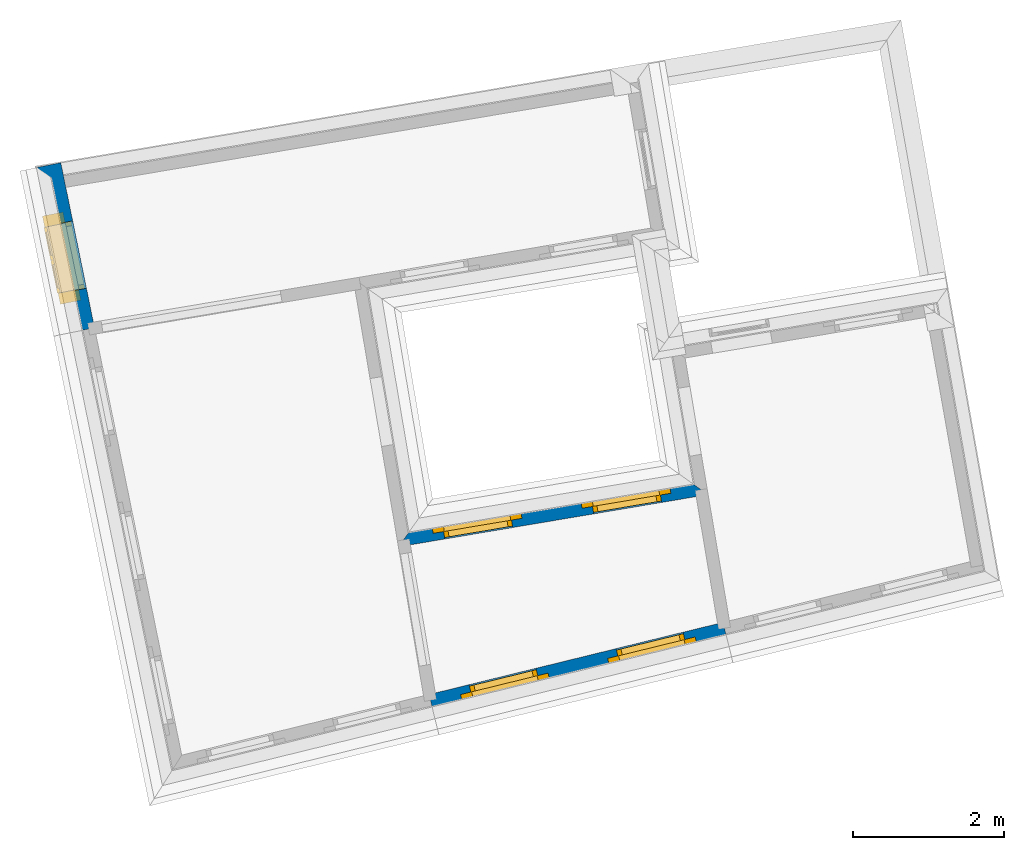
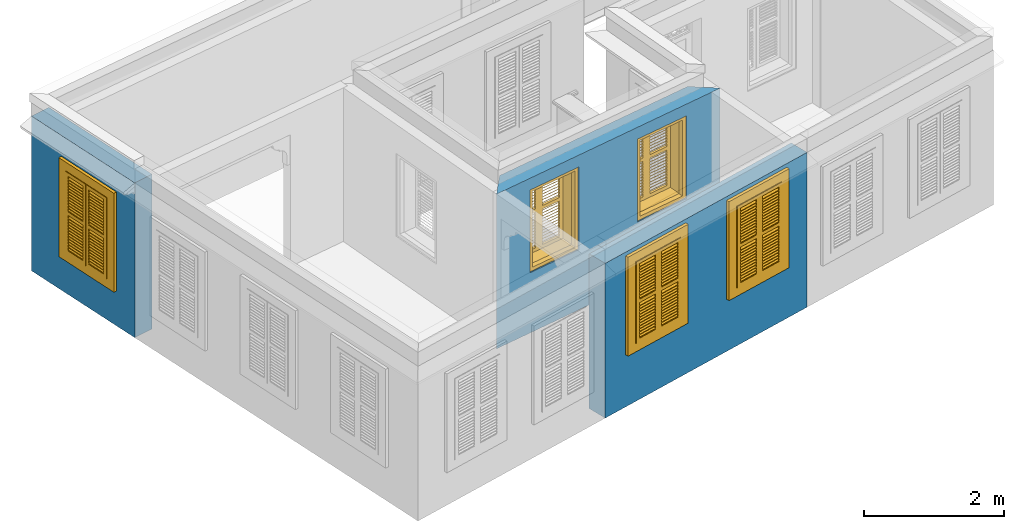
# One storey, part 3 of 12: 5 windows, 3 walls, 5 openings.
"""IFC4 building model written with IfcOpenShell, lengths in metres."""

from ifc_helpers import new_model, si_unit, frame, origin, origin_with_axes, place, context, subcontext, project, spatial, polyline, outline, extrude, faceted_brep, source, transform, mapped, material, layer, layer_set, layer_usage, type_object, type_shapes, element, fill, save


model = new_model("IFC4")

# Units and contexts
model_context = context("Model", 3, world=origin_with_axes())
body_context = subcontext(model_context, "Body", "Model", "MODEL_VIEW")
ifc_project = project(units=[si_unit("PLANEANGLEUNIT", "RADIAN"), si_unit("MASSUNIT", "GRAM", prefix="KILO"), si_unit("FORCEUNIT", "NEWTON", prefix="KILO"), si_unit("LENGTHUNIT", "METRE"), si_unit("AREAUNIT", "SQUARE_METRE"), si_unit("VOLUMEUNIT", "CUBIC_METRE")], contexts=[model_context, model_context])

# Site, building, storey
site_placement = place(None, origin_with_axes())
site = spatial("IfcSite", under=ifc_project, at=site_placement, Name="Site plot-6", CompositionType="ELEMENT")
building_placement = place(None, origin_with_axes())
building = spatial("IfcBuilding", under=site, at=building_placement, Name="Building plot-6", CompositionType="ELEMENT")
storey_placement = place(None, frame((0.0, 0.0, 3.6), z_axis=(0.0, 0.0, 1.0), x_axis=(1.0, 0.0, 0.0)))
storey = spatial("IfcBuildingStorey", under=building, at=storey_placement, Name="plot-6 1", CompositionType="ELEMENT", Elevation=3.6)

# Wall, openings, windows
ifc_material = material(Name="Masonry")
ifc_layer = layer(ifc_material, 0.33, ventilated=False)
ifc_layer_set = layer_set([ifc_layer], Name="exterior_0.08_0.25")
ifc_layer_usage = layer_usage(ifc_layer_set, "AXIS2", "POSITIVE", -0.25)
wall_type = type_object("IfcWallType", Name="exterior_0.08_0.25", PredefinedType="SOLIDWALL", material=ifc_layer_set)
wall_1_placement = place(storey_placement, frame((-2.44228456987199, -0.0610171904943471, 0.0), z_axis=(0.0, 0.0, 1.0), x_axis=(-0.986076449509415, -0.166292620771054, 0.0)))
wall_1 = element("IfcWall", 1, at=wall_1_placement, inside=storey, type_object=wall_type, material=ifc_layer_usage, Name="exterior", context=body_context, shape_type="SweptSolid", body=[
    extrude(outline(polyline([(-0.0799999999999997, 0.080000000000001), (0.249999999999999, -0.250000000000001), (3.73805094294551, -0.250000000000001), (4.06805094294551, 0.0799999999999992), (-0.0799999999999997, 0.080000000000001)])), origin_with_axes(), (0.0, 0.0, 1.0), 2.7),
])
opening_1_placement = place(wall_1_placement, frame((0.542012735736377, 0.0, 1.05)))
opening_1 = element("IfcOpeningElement", 2, at=opening_1_placement, cuts=wall_1, Name="My Opening", ObjectType="Opening", context=body_context, shape_type="SweptSolid", body=[
    extrude(outline(polyline([(0.0, -0.27), (0.91, -0.27), (0.91, 1.1), (0.0, 1.1), (0.0, -0.27)])), origin_with_axes(), (0.0, 0.0, 1.0), 1.445),
])
opening_2_placement = place(wall_1_placement, frame((2.53603820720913, 0.0, 1.05)))
opening_2 = element("IfcOpeningElement", 3, at=opening_2_placement, cuts=wall_1, Name="My Opening", ObjectType="Opening", context=body_context, shape_type="SweptSolid", body=[
    extrude(outline(polyline([(0.0, -0.27), (0.91, -0.27), (0.91, 1.1), (4.44089209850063e-16, 1.1), (0.0, -0.27)])), origin_with_axes(), (0.0, 0.0, 1.0), 1.445),
])
window_type = type_object("IfcWindowType", Name="shuttered_shorter", PartitioningType="DOUBLE_PANEL_HORIZONTAL", PredefinedType="NOTDEFINED")
shared_shape = source(origin(), body_context, "Body", "Brep", [
    faceted_brep([(0.393, 0.0, 0.622), (0.074, 0.0, 0.622), (0.074, 0.0, 0.632), (0.393, 0.0, 0.632), (0.074, -0.04, 0.592), (0.393, -0.04, 0.592), (0.393, -0.04, 0.582), (0.074, -0.04, 0.582), (0.517, 0.0, 0.682), (0.836, 0.0, 0.682), (0.836, 0.0, 0.672), (0.517, 0.0, 0.672), (0.517, -0.04, 0.642), (0.836, -0.04, 0.642), (0.836, -0.04, 0.632), (0.517, -0.04, 0.632), (0.517, 0.0, 0.632), (0.836, 0.0, 0.632), (0.836, 0.0, 0.622), (0.517, 0.0, 0.622), (0.517, -0.04, 0.592), (0.836, -0.04, 0.592), (0.836, -0.04, 0.582), (0.517, -0.04, 0.582), (0.517, 0.0, 0.232), (0.836, 0.0, 0.232), (0.836, 0.0, 0.222), (0.517, 0.0, 0.222), (0.517, -0.04, 0.192), (0.836, -0.04, 0.192), (0.836, -0.04, 0.182), (0.517, -0.04, 0.182), (0.517, 0.0, 0.532), (0.836, 0.0, 0.532), (0.836, 0.0, 0.522), (0.517, 0.0, 0.522), (0.517, -0.04, 0.492), (0.836, -0.04, 0.492), (0.836, -0.04, 0.482), (0.517, -0.04, 0.482), (0.517, 0.0, 0.482), (0.836, 0.0, 0.482), (0.836, 0.0, 0.472), (0.517, 0.0, 0.472), (0.517, -0.04, 0.442), (0.836, -0.04, 0.442), (0.836, -0.04, 0.432), (0.517, -0.04, 0.432), (0.517, 0.0, 0.582), (0.836, 0.0, 0.582), (0.836, 0.0, 0.572), (0.517, 0.0, 0.572), (0.517, -0.04, 0.542), (0.836, -0.04, 0.542), (0.836, -0.04, 0.532), (0.517, -0.04, 0.532), (0.517, 0.0, 0.182), (0.836, 0.0, 0.182), (0.836, 0.0, 0.172), (0.517, 0.0, 0.172), (0.517, -0.04, 0.142), (0.836, -0.04, 0.142), (0.836, -0.04, 0.132), (0.517, -0.04, 0.132), (0.517, 0.0, 0.382), (0.836, 0.0, 0.382), (0.836, 0.0, 0.372), (0.517, 0.0, 0.372), (0.517, -0.04, 0.342), (0.836, -0.04, 0.342), (0.836, -0.04, 0.332), (0.517, -0.04, 0.332), (0.517, 0.0, 0.432), (0.836, 0.0, 0.432), (0.836, 0.0, 0.422), (0.517, 0.0, 0.422), (0.517, -0.04, 0.392), (0.836, -0.04, 0.392), (0.836, -0.04, 0.382), (0.517, -0.04, 0.382), (0.517, 0.0, 0.132), (0.836, 0.0, 0.132), (0.836, 0.0, 0.122), (0.517, 0.0, 0.122), (0.517, -0.04, 0.092), (0.836, -0.04, 0.092), (0.836, -0.04, 0.082), (0.517, -0.04, 0.082), (0.517, 0.0, 0.282), (0.836, 0.0, 0.282), (0.836, 0.0, 0.272), (0.517, 0.0, 0.272), (0.517, -0.04, 0.242), (0.836, -0.04, 0.242), (0.836, -0.04, 0.232), (0.517, -0.04, 0.232), (0.517, 0.0, 0.332), (0.836, 0.0, 0.332), (0.836, 0.0, 0.322), (0.517, 0.0, 0.322), (0.517, -0.04, 0.292), (0.836, -0.04, 0.292), (0.836, -0.04, 0.282), (0.517, -0.04, 0.282), (0.517, 0.0, 1.362667), (0.836, 0.0, 1.362667), (0.836, 0.0, 1.352667), (0.517, 0.0, 1.352667), (0.517, -0.04, 1.322667), (0.836, -0.04, 1.322667), (0.836, -0.04, 1.312667), (0.517, -0.04, 1.312667), (0.517, 0.0, 1.312667), (0.836, 0.0, 1.312667), (0.836, 0.0, 1.302667), (0.517, 0.0, 1.302667), (0.517, -0.04, 1.272667), (0.836, -0.04, 1.272667), (0.836, -0.04, 1.262667), (0.517, -0.04, 1.262667), (0.517, 0.0, 0.912667), (0.836, 0.0, 0.912667), (0.836, 0.0, 0.902667), (0.517, 0.0, 0.902667), (0.517, -0.04, 0.872667), (0.836, -0.04, 0.872667), (0.836, -0.04, 0.862667), (0.517, -0.04, 0.862667), (0.517, 0.0, 1.212667), (0.836, 0.0, 1.212667), (0.836, 0.0, 1.202667), (0.517, 0.0, 1.202667), (0.517, -0.04, 1.172667), (0.836, -0.04, 1.172667), (0.836, -0.04, 1.162667), (0.517, -0.04, 1.162667), (0.517, 0.0, 1.162667), (0.836, 0.0, 1.162667), (0.836, 0.0, 1.152667), (0.517, 0.0, 1.152667), (0.517, -0.04, 1.122667), (0.836, -0.04, 1.122667), (0.836, -0.04, 1.112667), (0.517, -0.04, 1.112667), (0.517, 0.0, 1.262667), (0.836, 0.0, 1.262667), (0.836, 0.0, 1.252667), (0.517, 0.0, 1.252667), (0.517, -0.04, 1.222667), (0.836, -0.04, 1.222667), (0.836, -0.04, 1.212667), (0.517, -0.04, 1.212667), (0.517, 0.0, 0.862667), (0.836, 0.0, 0.862667), (0.836, 0.0, 0.852667), (0.517, 0.0, 0.852667), (0.517, -0.04, 0.822667), (0.836, -0.04, 0.822667), (0.836, -0.04, 0.812667), (0.517, -0.04, 0.812667), (0.517, 0.0, 1.062667), (0.836, 0.0, 1.062667), (0.836, 0.0, 1.052667), (0.517, 0.0, 1.052667), (0.517, -0.04, 1.022667), (0.836, -0.04, 1.022667), (0.836, -0.04, 1.012667), (0.517, -0.04, 1.012667), (0.517, 0.0, 1.112667), (0.836, 0.0, 1.112667), (0.836, 0.0, 1.102667), (0.517, 0.0, 1.102667), (0.517, -0.04, 1.072667), (0.836, -0.04, 1.072667), (0.836, -0.04, 1.062667), (0.517, -0.04, 1.062667), (0.517, 0.0, 0.812667), (0.836, 0.0, 0.812667), (0.836, 0.0, 0.802667), (0.517, 0.0, 0.802667), (0.517, -0.04, 0.772667), (0.836, -0.04, 0.772667), (0.836, -0.04, 0.762667), (0.517, -0.04, 0.762667), (0.517, 0.0, 0.962667), (0.836, 0.0, 0.962667), (0.836, 0.0, 0.952667), (0.517, 0.0, 0.952667), (0.517, -0.04, 0.922667), (0.836, -0.04, 0.922667), (0.836, -0.04, 0.912667), (0.517, -0.04, 0.912667), (0.517, 0.0, 1.012667), (0.836, 0.0, 1.012667), (0.836, 0.0, 1.002667), (0.517, 0.0, 1.002667), (0.517, -0.04, 0.972667), (0.836, -0.04, 0.972667), (0.836, -0.04, 0.962667), (0.517, -0.04, 0.962667), (0.074, 0.0, 0.682), (0.393, 0.0, 0.682), (0.393, 0.0, 0.672), (0.074, 0.0, 0.672), (0.074, -0.04, 0.642), (0.393, -0.04, 0.642), (0.393, -0.04, 0.632), (0.074, -0.04, 0.632), (0.074, 0.0, 0.232), (0.393, 0.0, 0.232), (0.393, 0.0, 0.222), (0.074, 0.0, 0.222), (0.074, -0.04, 0.192), (0.393, -0.04, 0.192), (0.393, -0.04, 0.182), (0.074, -0.04, 0.182), (0.074, 0.0, 0.532), (0.393, 0.0, 0.532), (0.393, 0.0, 0.522), (0.074, 0.0, 0.522), (0.074, -0.04, 0.492), (0.393, -0.04, 0.492), (0.393, -0.04, 0.482), (0.074, -0.04, 0.482), (0.074, 0.0, 0.482), (0.393, 0.0, 0.482), (0.393, 0.0, 0.472), (0.074, 0.0, 0.472), (0.074, -0.04, 0.442), (0.393, -0.04, 0.442), (0.393, -0.04, 0.432), (0.074, -0.04, 0.432), (0.074, 0.0, 0.582), (0.393, 0.0, 0.582), (0.393, 0.0, 0.572), (0.074, 0.0, 0.572), (0.074, -0.04, 0.542), (0.393, -0.04, 0.542), (0.393, -0.04, 0.532), (0.074, -0.04, 0.532), (0.074, 0.0, 0.182), (0.393, 0.0, 0.182), (0.393, 0.0, 0.172), (0.074, 0.0, 0.172), (0.074, -0.04, 0.142), (0.393, -0.04, 0.142), (0.393, -0.04, 0.132), (0.074, -0.04, 0.132), (0.074, 0.0, 0.382), (0.393, 0.0, 0.382), (0.393, 0.0, 0.372), (0.074, 0.0, 0.372), (0.074, -0.04, 0.342), (0.393, -0.04, 0.342), (0.393, -0.04, 0.332), (0.074, -0.04, 0.332), (0.074, 0.0, 0.432), (0.393, 0.0, 0.432), (0.393, 0.0, 0.422), (0.074, 0.0, 0.422), (0.074, -0.04, 0.392), (0.393, -0.04, 0.392), (0.393, -0.04, 0.382), (0.074, -0.04, 0.382), (0.074, 0.0, 0.132), (0.393, 0.0, 0.132), (0.393, 0.0, 0.122), (0.074, 0.0, 0.122), (0.074, -0.04, 0.092), (0.393, -0.04, 0.092), (0.393, -0.04, 0.082), (0.074, -0.04, 0.082), (0.074, 0.0, 0.282), (0.393, 0.0, 0.282), (0.393, 0.0, 0.272), (0.074, 0.0, 0.272), (0.074, -0.04, 0.242), (0.393, -0.04, 0.242), (0.393, -0.04, 0.232), (0.074, -0.04, 0.232), (0.074, 0.0, 0.332), (0.393, 0.0, 0.332), (0.393, 0.0, 0.322), (0.074, 0.0, 0.322), (0.074, -0.04, 0.292), (0.393, -0.04, 0.292), (0.393, -0.04, 0.282), (0.074, -0.04, 0.282), (0.074, 0.0, 1.362667), (0.393, 0.0, 1.362667), (0.393, 0.0, 1.352667), (0.074, 0.0, 1.352667), (0.074, -0.04, 1.322667), (0.393, -0.04, 1.322667), (0.393, -0.04, 1.312667), (0.074, -0.04, 1.312667), (0.074, 0.0, 1.312667), (0.393, 0.0, 1.312667), (0.393, 0.0, 1.302667), (0.074, 0.0, 1.302667), (0.074, -0.04, 1.272667), (0.393, -0.04, 1.272667), (0.393, -0.04, 1.262667), (0.074, -0.04, 1.262667), (0.074, 0.0, 0.912667), (0.393, 0.0, 0.912667), (0.393, 0.0, 0.902667), (0.074, 0.0, 0.902667), (0.074, -0.04, 0.872667), (0.393, -0.04, 0.872667), (0.393, -0.04, 0.862667), (0.074, -0.04, 0.862667), (0.074, 0.0, 1.212667), (0.393, 0.0, 1.212667), (0.393, 0.0, 1.202667), (0.074, 0.0, 1.202667), (0.074, -0.04, 1.172667), (0.393, -0.04, 1.172667), (0.393, -0.04, 1.162667), (0.074, -0.04, 1.162667), (0.074, 0.0, 1.162667), (0.393, 0.0, 1.162667), (0.393, 0.0, 1.152667), (0.074, 0.0, 1.152667), (0.074, -0.04, 1.122667), (0.393, -0.04, 1.122667), (0.393, -0.04, 1.112667), (0.074, -0.04, 1.112667), (0.074, 0.0, 1.262667), (0.393, 0.0, 1.262667), (0.393, 0.0, 1.252667), (0.074, 0.0, 1.252667), (0.074, -0.04, 1.222667), (0.393, -0.04, 1.222667), (0.393, -0.04, 1.212667), (0.074, -0.04, 1.212667), (0.074, 0.0, 0.862667), (0.393, 0.0, 0.862667), (0.393, 0.0, 0.852667), (0.074, 0.0, 0.852667), (0.074, -0.04, 0.822667), (0.393, -0.04, 0.822667), (0.393, -0.04, 0.812667), (0.074, -0.04, 0.812667), (0.074, 0.0, 1.062667), (0.393, 0.0, 1.062667), (0.393, 0.0, 1.052667), (0.074, 0.0, 1.052667), (0.074, -0.04, 1.022667), (0.393, -0.04, 1.022667), (0.393, -0.04, 1.012667), (0.074, -0.04, 1.012667), (0.074, 0.0, 1.112667), (0.393, 0.0, 1.112667), (0.393, 0.0, 1.102667), (0.074, 0.0, 1.102667), (0.074, -0.04, 1.072667), (0.393, -0.04, 1.072667), (0.393, -0.04, 1.062667), (0.074, -0.04, 1.062667), (0.074, 0.0, 0.812667), (0.393, 0.0, 0.812667), (0.393, 0.0, 0.802667), (0.074, 0.0, 0.802667), (0.074, -0.04, 0.772667), (0.393, -0.04, 0.772667), (0.393, -0.04, 0.762667), (0.074, -0.04, 0.762667), (0.074, 0.0, 0.962667), (0.393, 0.0, 0.962667), (0.393, 0.0, 0.952667), (0.074, 0.0, 0.952667), (0.074, -0.04, 0.922667), (0.393, -0.04, 0.922667), (0.393, -0.04, 0.912667), (0.074, -0.04, 0.912667), (0.074, 0.0, 1.012667), (0.393, 0.0, 1.012667), (0.393, 0.0, 1.002667), (0.074, 0.0, 1.002667), (0.074, -0.04, 0.972667), (0.393, -0.04, 0.972667), (0.393, -0.04, 0.962667), (0.074, -0.04, 0.962667), (0.517, -0.04, 0.072), (0.457, -0.04, 0.012), (0.896, -0.04, 0.012), (0.836, -0.04, 0.072), (0.457, -0.04, 0.692667), (0.517, -0.04, 0.692667), (0.457, 0.0, 0.012), (0.896, 0.0, 0.012), (0.836, -0.04, 0.692667), (0.896, -0.04, 0.692667), (0.836, 0.0, 0.072), (0.517, 0.0, 0.072), (0.457, 0.0, 0.692667), (0.517, 0.0, 0.692667), (0.517, -0.04, 0.752666), (0.457, -0.04, 0.752666), (0.896, 0.0, 0.692667), (0.836, 0.0, 0.692667), (0.836, -0.04, 0.752666), (0.896, -0.04, 0.752666), (0.457, 0.0, 0.752666), (0.457, -0.04, 1.433333), (0.517, -0.04, 1.373333), (0.896, 0.0, 0.752666), (0.836, -0.04, 1.373333), (0.896, -0.04, 1.433333), (0.457, 0.0, 1.433333), (0.517, 0.0, 0.752666), (0.836, 0.0, 0.752666), (0.517, 0.0, 1.373333), (0.896, 0.0, 1.433333), (0.836, 0.0, 1.373333), (0.074, -0.04, 0.072), (0.014, -0.04, 0.012), (0.453, -0.04, 0.012), (0.393, -0.04, 0.072), (0.014, -0.04, 0.692667), (0.074, -0.04, 0.692667), (0.014, 0.0, 0.012), (0.453, 0.0, 0.012), (0.393, -0.04, 0.692667), (0.453, -0.04, 0.692667), (0.393, 0.0, 0.072), (0.074, 0.0, 0.072), (0.014, 0.0, 0.692667), (0.074, 0.0, 0.692667), (0.074, -0.04, 0.752666), (0.014, -0.04, 0.752666), (0.453, 0.0, 0.692667), (0.393, 0.0, 0.692667), (0.393, -0.04, 0.752666), (0.453, -0.04, 0.752666), (0.014, 0.0, 0.752666), (0.014, -0.04, 1.433333), (0.074, -0.04, 1.373333), (0.453, 0.0, 0.752666), (0.393, -0.04, 1.373333), (0.453, -0.04, 1.433333), (0.014, 0.0, 1.433333), (0.074, 0.0, 0.752666), (0.393, 0.0, 0.752666), (0.074, 0.0, 1.373333), (0.453, 0.0, 1.433333), (0.393, 0.0, 1.373333), (0.0, 0.33, 1.445), (0.91, 0.33, 1.445), (0.85, 0.33, 1.385), (0.06, 0.33, 1.385), (0.91, 0.25, 1.445), (0.0, 0.25, 1.445), (0.91, 0.25, 1.445), (0.85, 0.33, 0.06), (0.91, 0.33, 0.0), (0.85, 0.25, 1.385), (0.06, 0.25, 1.385), (0.0, 0.33, 0.0), (0.06, 0.33, 0.06), (0.0, 0.25, 0.0), (0.91, 0.25, 0.0), (0.85, 0.25, 0.06), (0.06, 0.25, 0.06), (1.05, 0.25, 1.585), (-0.14, 0.25, 1.585), (-0.14, -0.03, 1.585), (1.05, -0.03, 1.585), (0.9, -0.03, 1.435), (0.01, -0.03, 1.435), (0.01, 0.25, 1.435), (0.9, 0.25, 1.435), (0.9, 0.25, 0.01), (0.9, -0.03, 0.01), (1.05, -0.03, -0.14), (1.05, 0.25, -0.14), (0.01, -0.03, 0.01), (0.01, 0.25, 0.01), (-0.14, -0.03, -0.14), (-0.14, 0.25, -0.14)], [[[0, 1, 2, 3]], [[4, 5, 3, 2]], [[5, 6, 0, 3]], [[1, 0, 6, 7]], [[2, 1, 7, 4]], [[5, 4, 7, 6]], [[8, 9, 10, 11]], [[12, 13, 9, 8]], [[13, 14, 10, 9]], [[14, 15, 11, 10]], [[15, 12, 8, 11]], [[13, 12, 15, 14]], [[16, 17, 18, 19]], [[20, 21, 17, 16]], [[21, 22, 18, 17]], [[22, 23, 19, 18]], [[23, 20, 16, 19]], [[21, 20, 23, 22]], [[24, 25, 26, 27]], [[28, 29, 25, 24]], [[29, 30, 26, 25]], [[30, 31, 27, 26]], [[31, 28, 24, 27]], [[29, 28, 31, 30]], [[32, 33, 34, 35]], [[36, 37, 33, 32]], [[37, 38, 34, 33]], [[38, 39, 35, 34]], [[39, 36, 32, 35]], [[37, 36, 39, 38]], [[40, 41, 42, 43]], [[44, 45, 41, 40]], [[45, 46, 42, 41]], [[46, 47, 43, 42]], [[47, 44, 40, 43]], [[45, 44, 47, 46]], [[48, 49, 50, 51]], [[52, 53, 49, 48]], [[53, 54, 50, 49]], [[54, 55, 51, 50]], [[55, 52, 48, 51]], [[53, 52, 55, 54]], [[56, 57, 58, 59]], [[60, 61, 57, 56]], [[61, 62, 58, 57]], [[62, 63, 59, 58]], [[63, 60, 56, 59]], [[61, 60, 63, 62]], [[64, 65, 66, 67]], [[68, 69, 65, 64]], [[69, 70, 66, 65]], [[70, 71, 67, 66]], [[71, 68, 64, 67]], [[69, 68, 71, 70]], [[72, 73, 74, 75]], [[76, 77, 73, 72]], [[77, 78, 74, 73]], [[78, 79, 75, 74]], [[79, 76, 72, 75]], [[77, 76, 79, 78]], [[80, 81, 82, 83]], [[84, 85, 81, 80]], [[85, 86, 82, 81]], [[86, 87, 83, 82]], [[87, 84, 80, 83]], [[85, 84, 87, 86]], [[88, 89, 90, 91]], [[92, 93, 89, 88]], [[93, 94, 90, 89]], [[94, 95, 91, 90]], [[95, 92, 88, 91]], [[93, 92, 95, 94]], [[96, 97, 98, 99]], [[100, 101, 97, 96]], [[101, 102, 98, 97]], [[102, 103, 99, 98]], [[103, 100, 96, 99]], [[101, 100, 103, 102]], [[104, 105, 106, 107]], [[108, 109, 105, 104]], [[109, 110, 106, 105]], [[110, 111, 107, 106]], [[111, 108, 104, 107]], [[109, 108, 111, 110]], [[112, 113, 114, 115]], [[116, 117, 113, 112]], [[117, 118, 114, 113]], [[118, 119, 115, 114]], [[119, 116, 112, 115]], [[117, 116, 119, 118]], [[120, 121, 122, 123]], [[124, 125, 121, 120]], [[125, 126, 122, 121]], [[126, 127, 123, 122]], [[127, 124, 120, 123]], [[125, 124, 127, 126]], [[128, 129, 130, 131]], [[132, 133, 129, 128]], [[133, 134, 130, 129]], [[134, 135, 131, 130]], [[135, 132, 128, 131]], [[133, 132, 135, 134]], [[136, 137, 138, 139]], [[140, 141, 137, 136]], [[141, 142, 138, 137]], [[142, 143, 139, 138]], [[139, 143, 140, 136]], [[141, 140, 143, 142]], [[144, 145, 146, 147]], [[148, 149, 145, 144]], [[149, 150, 146, 145]], [[150, 151, 147, 146]], [[151, 148, 144, 147]], [[149, 148, 151, 150]], [[152, 153, 154, 155]], [[156, 157, 153, 152]], [[157, 158, 154, 153]], [[158, 159, 155, 154]], [[159, 156, 152, 155]], [[157, 156, 159, 158]], [[160, 161, 162, 163]], [[164, 165, 161, 160]], [[165, 166, 162, 161]], [[166, 167, 163, 162]], [[167, 164, 160, 163]], [[165, 164, 167, 166]], [[168, 169, 170, 171]], [[172, 173, 169, 168]], [[173, 174, 170, 169]], [[174, 175, 171, 170]], [[175, 172, 168, 171]], [[173, 172, 175, 174]], [[176, 177, 178, 179]], [[180, 181, 177, 176]], [[181, 182, 178, 177]], [[182, 183, 179, 178]], [[183, 180, 176, 179]], [[181, 180, 183, 182]], [[184, 185, 186, 187]], [[188, 189, 185, 184]], [[189, 190, 186, 185]], [[190, 191, 187, 186]], [[191, 188, 184, 187]], [[189, 188, 191, 190]], [[192, 193, 194, 195]], [[196, 197, 193, 192]], [[197, 198, 194, 193]], [[198, 199, 195, 194]], [[199, 196, 192, 195]], [[197, 196, 199, 198]], [[200, 201, 202, 203]], [[204, 205, 201, 200]], [[205, 206, 202, 201]], [[206, 207, 203, 202]], [[207, 204, 200, 203]], [[205, 204, 207, 206]], [[208, 209, 210, 211]], [[212, 213, 209, 208]], [[213, 214, 210, 209]], [[214, 215, 211, 210]], [[215, 212, 208, 211]], [[213, 212, 215, 214]], [[216, 217, 218, 219]], [[220, 221, 217, 216]], [[221, 222, 218, 217]], [[222, 223, 219, 218]], [[223, 220, 216, 219]], [[221, 220, 223, 222]], [[224, 225, 226, 227]], [[228, 229, 225, 224]], [[229, 230, 226, 225]], [[230, 231, 227, 226]], [[231, 228, 224, 227]], [[229, 228, 231, 230]], [[232, 233, 234, 235]], [[236, 237, 233, 232]], [[237, 238, 234, 233]], [[238, 239, 235, 234]], [[239, 236, 232, 235]], [[237, 236, 239, 238]], [[240, 241, 242, 243]], [[244, 245, 241, 240]], [[245, 246, 242, 241]], [[246, 247, 243, 242]], [[247, 244, 240, 243]], [[245, 244, 247, 246]], [[248, 249, 250, 251]], [[252, 253, 249, 248]], [[253, 254, 250, 249]], [[254, 255, 251, 250]], [[255, 252, 248, 251]], [[253, 252, 255, 254]], [[256, 257, 258, 259]], [[260, 261, 257, 256]], [[261, 262, 258, 257]], [[262, 263, 259, 258]], [[263, 260, 256, 259]], [[261, 260, 263, 262]], [[264, 265, 266, 267]], [[268, 269, 265, 264]], [[269, 270, 266, 265]], [[270, 271, 267, 266]], [[271, 268, 264, 267]], [[269, 268, 271, 270]], [[272, 273, 274, 275]], [[276, 277, 273, 272]], [[277, 278, 274, 273]], [[278, 279, 275, 274]], [[279, 276, 272, 275]], [[277, 276, 279, 278]], [[280, 281, 282, 283]], [[284, 285, 281, 280]], [[285, 286, 282, 281]], [[286, 287, 283, 282]], [[287, 284, 280, 283]], [[285, 284, 287, 286]], [[288, 289, 290, 291]], [[292, 293, 289, 288]], [[293, 294, 290, 289]], [[294, 295, 291, 290]], [[295, 292, 288, 291]], [[293, 292, 295, 294]], [[296, 297, 298, 299]], [[300, 301, 297, 296]], [[301, 302, 298, 297]], [[302, 303, 299, 298]], [[303, 300, 296, 299]], [[301, 300, 303, 302]], [[304, 305, 306, 307]], [[308, 309, 305, 304]], [[309, 310, 306, 305]], [[310, 311, 307, 306]], [[311, 308, 304, 307]], [[309, 308, 311, 310]], [[312, 313, 314, 315]], [[316, 317, 313, 312]], [[317, 318, 314, 313]], [[318, 319, 315, 314]], [[319, 316, 312, 315]], [[317, 316, 319, 318]], [[320, 321, 322, 323]], [[324, 325, 321, 320]], [[325, 326, 322, 321]], [[326, 327, 323, 322]], [[327, 324, 320, 323]], [[325, 324, 327, 326]], [[328, 329, 330, 331]], [[332, 333, 329, 328]], [[333, 334, 330, 329]], [[334, 335, 331, 330]], [[335, 332, 328, 331]], [[333, 332, 335, 334]], [[336, 337, 338, 339]], [[340, 341, 337, 336]], [[341, 342, 338, 337]], [[342, 343, 339, 338]], [[343, 340, 336, 339]], [[341, 340, 343, 342]], [[344, 345, 346, 347]], [[348, 349, 345, 344]], [[349, 350, 346, 345]], [[350, 351, 347, 346]], [[351, 348, 344, 347]], [[349, 348, 351, 350]], [[352, 353, 354, 355]], [[356, 357, 353, 352]], [[357, 358, 354, 353]], [[358, 359, 355, 354]], [[359, 356, 352, 355]], [[357, 356, 359, 358]], [[360, 361, 362, 363]], [[364, 365, 361, 360]], [[365, 366, 362, 361]], [[366, 367, 363, 362]], [[367, 364, 360, 363]], [[365, 364, 367, 366]], [[368, 369, 370, 371]], [[372, 373, 369, 368]], [[373, 374, 370, 369]], [[374, 375, 371, 370]], [[375, 372, 368, 371]], [[373, 372, 375, 374]], [[376, 377, 378, 379]], [[380, 381, 377, 376]], [[381, 382, 378, 377]], [[382, 383, 379, 378]], [[383, 380, 376, 379]], [[381, 380, 383, 382]], [[384, 385, 386, 387]], [[388, 385, 384, 389]], [[390, 391, 386, 385]], [[392, 387, 386, 393]], [[384, 387, 394, 395]], [[390, 385, 388, 396]], [[389, 384, 395, 397]], [[389, 398, 399, 388]], [[390, 395, 394, 391]], [[400, 393, 386, 391]], [[387, 392, 401, 394]], [[402, 392, 393, 403]], [[396, 388, 399, 404]], [[390, 396, 397, 395]], [[392, 389, 397, 401]], [[398, 389, 392, 402]], [[405, 399, 398, 406]], [[394, 401, 400, 391]], [[407, 403, 393, 400]], [[408, 402, 403, 409]], [[404, 399, 405, 410]], [[411, 397, 396, 404]], [[397, 411, 412, 401]], [[398, 402, 412, 411]], [[406, 398, 411, 413]], [[405, 406, 408, 409]], [[401, 412, 407, 400]], [[414, 409, 403, 407]], [[402, 408, 415, 412]], [[405, 409, 414, 410]], [[404, 410, 413, 411]], [[408, 406, 413, 415]], [[412, 415, 414, 407]], [[413, 410, 414, 415]], [[416, 417, 418, 419]], [[420, 417, 416, 421]], [[422, 423, 418, 417]], [[424, 419, 418, 425]], [[416, 419, 426, 427]], [[422, 417, 420, 428]], [[421, 416, 427, 429]], [[421, 430, 431, 420]], [[422, 427, 426, 423]], [[432, 425, 418, 423]], [[419, 424, 433, 426]], [[434, 424, 425, 435]], [[428, 420, 431, 436]], [[422, 428, 429, 427]], [[424, 421, 429, 433]], [[430, 421, 424, 434]], [[437, 431, 430, 438]], [[426, 433, 432, 423]], [[439, 435, 425, 432]], [[440, 434, 435, 441]], [[436, 431, 437, 442]], [[443, 429, 428, 436]], [[429, 443, 444, 433]], [[430, 434, 444, 443]], [[438, 430, 443, 445]], [[437, 438, 440, 441]], [[433, 444, 439, 432]], [[446, 441, 435, 439]], [[434, 440, 447, 444]], [[437, 441, 446, 442]], [[436, 442, 445, 443]], [[440, 438, 445, 447]], [[444, 447, 446, 439]], [[445, 442, 446, 447]], [[448, 449, 450, 451]], [[452, 449, 448]], [[448, 453, 454]], [[448, 454, 452]], [[455, 450, 449, 456]], [[451, 450, 457, 458]], [[459, 448, 451, 460]], [[448, 459, 461, 453]], [[454, 453, 458, 457]], [[462, 452, 454]], [[454, 457, 463]], [[454, 463, 462]], [[456, 449, 452, 462]], [[450, 455, 463, 457]], [[456, 459, 460, 455]], [[460, 451, 458, 464]], [[459, 456, 462, 461]], [[464, 458, 453, 461]], [[461, 462, 463, 464]], [[455, 460, 464, 463]], [[465, 466, 467, 468]], [[469, 470, 471, 472]], [[473, 474, 469, 472]], [[465, 468, 475, 476]], [[470, 477, 478, 471]], [[474, 473, 478, 477]], [[474, 477, 479, 475]], [[470, 467, 479, 477]], [[470, 469, 468, 467]], [[474, 475, 468, 469]], [[471, 478, 480, 466]], [[473, 472, 465, 476]], [[473, 476, 480, 478]], [[466, 465, 472, 471]], [[480, 476, 475, 479]], [[480, 479, 467, 466]]]),
])
type_shapes(window_type, [shared_shape])
window_1_placement = place(storey_placement, frame((-3.02164957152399, 0.115090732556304, 1.05), z_axis=(0.0, 0.0, 1.0), x_axis=(-0.897329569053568, -0.151326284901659, 0.0)))
window_1 = element("IfcWindow", 4, at=window_1_placement, inside=storey, type_object=window_type, Name="kitchen sahn window", OverallHeight=1.445, OverallWidth=0.91, context=body_context, shape_type="MappedRepresentation", body=[
    mapped(shared_shape, transform((0.0, 0.0, 0.0), scale=1.0)),
])
fill(opening_1, window_1)
window_2_placement = place(storey_placement, frame((-4.98791112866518, -0.216500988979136, 1.05), z_axis=(0.0, 0.0, 1.0), x_axis=(-0.897329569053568, -0.151326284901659, 0.0)))
window_2 = element("IfcWindow", 5, at=window_2_placement, inside=storey, type_object=window_type, Name="kitchen sahn window", OverallHeight=1.445, OverallWidth=0.91, context=body_context, shape_type="MappedRepresentation", body=[
    mapped(shared_shape, transform((0.0, 0.0, 0.0), scale=1.0)),
])
fill(opening_2, window_2)

# Wall, opening, window
wall_2_placement = place(storey_placement, frame((-10.9279927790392, 3.99736710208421, 0.0), z_axis=(0.0, 0.0, 1.0), x_axis=(0.199943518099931, -0.979807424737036, 0.0)))
wall_2 = element("IfcWall", 6, at=wall_2_placement, inside=storey, type_object=wall_type, material=ifc_layer_usage, Name="exterior", context=body_context, shape_type="SweptSolid", body=[
    extrude(outline(polyline([(-0.25, 0.0800000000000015), (-0.25, -0.25), (1.97695746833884, -0.250000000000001), (1.97695746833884, 0.0800000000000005), (-0.25, 0.0800000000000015)])), origin_with_axes(), (0.0, 0.0, 1.0), 2.7),
])
opening_3_placement = place(wall_2_placement, frame((0.53347873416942, 0.0, 0.75)))
opening_3 = element("IfcOpeningElement", 7, at=opening_3_placement, cuts=wall_2, Name="My Opening", ObjectType="Opening", context=body_context, shape_type="SweptSolid", body=[
    extrude(outline(polyline([(0.0, -0.270000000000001), (0.91, -0.27), (0.91, 1.1), (2.22044604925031e-16, 1.1), (0.0, -0.270000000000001)])), origin_with_axes(), (0.0, 0.0, 1.0), 1.445),
])
window_3_placement = place(storey_placement, frame((-11.0858751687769, 3.42067592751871, 0.75), z_axis=(0.0, 0.0, 1.0), x_axis=(0.181948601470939, -0.891624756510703, 0.0)))
window_3 = element("IfcWindow", 8, at=window_3_placement, inside=storey, type_object=window_type, Name="circulation outside window", OverallHeight=1.445, OverallWidth=0.91, context=body_context, shape_type="MappedRepresentation", body=[
    mapped(shared_shape, transform((0.0, 0.0, 0.0), scale=1.0)),
])
fill(opening_3, window_3)

# Wall, openings, windows
wall_3_placement = place(storey_placement, frame((-6.01733764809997, -2.84391455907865, 0.0), z_axis=(0.0, 0.0, 1.0), x_axis=(0.971213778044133, 0.238209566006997, 0.0)))
wall_3 = element("IfcWall", 9, at=wall_3_placement, inside=storey, type_object=wall_type, material=ifc_layer_usage, Name="exterior", context=body_context, shape_type="SweptSolid", body=[
    extrude(outline(polyline([(-3.06285495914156e-17, 0.08), (1.26330387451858e-16, -0.25), (3.99883369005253, -0.25), (3.99883369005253, 0.0800000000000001), (-3.06285495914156e-17, 0.08)])), origin_with_axes(), (0.0, 0.0, 1.0), 2.7),
])
opening_4_placement = place(wall_3_placement, frame((0.544708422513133, 0.0, 1.05)))
opening_4 = element("IfcOpeningElement", 10, at=opening_4_placement, cuts=wall_3, Name="My Opening", ObjectType="Opening", context=body_context, shape_type="SweptSolid", body=[
    extrude(outline(polyline([(0.0, -0.27), (0.91, -0.27), (0.91, 1.1), (1.11022302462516e-16, 1.1), (0.0, -0.27)])), origin_with_axes(), (0.0, 0.0, 1.0), 1.445),
])
opening_5_placement = place(wall_3_placement, frame((2.5441252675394, 0.0, 1.05)))
opening_5 = element("IfcOpeningElement", 11, at=opening_5_placement, cuts=wall_3, Name="My Opening", ObjectType="Opening", context=body_context, shape_type="SweptSolid", body=[
    extrude(outline(polyline([(0.0, -0.27), (0.91, -0.27), (0.91, 1.1), (-4.44089209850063e-16, 1.1), (0.0, -0.27)])), origin_with_axes(), (0.0, 0.0, 1.0), 1.445),
])
window_4_placement = place(storey_placement, frame((-5.42399274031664, -2.97638752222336, 1.05), z_axis=(0.0, 0.0, 1.0), x_axis=(0.883804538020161, 0.216770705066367, 0.0)))
window_4 = element("IfcWindow", 12, at=window_4_placement, inside=storey, type_object=window_type, Name="kitchen outside window", OverallHeight=1.445, OverallWidth=0.91, context=body_context, shape_type="MappedRepresentation", body=[
    mapped(shared_shape, transform((0.0, 0.0, 0.0), scale=1.0)),
])
fill(opening_4, window_4)
window_5_placement = place(storey_placement, frame((-3.4821315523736, -2.50010730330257, 1.05), z_axis=(0.0, 0.0, 1.0), x_axis=(0.883804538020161, 0.216770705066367, 0.0)))
window_5 = element("IfcWindow", 13, at=window_5_placement, inside=storey, type_object=window_type, Name="kitchen outside window", OverallHeight=1.445, OverallWidth=0.91, context=body_context, shape_type="MappedRepresentation", body=[
    mapped(shared_shape, transform((0.0, 0.0, 0.0), scale=1.0)),
])
fill(opening_5, window_5)

save(model, "model.ifc")
